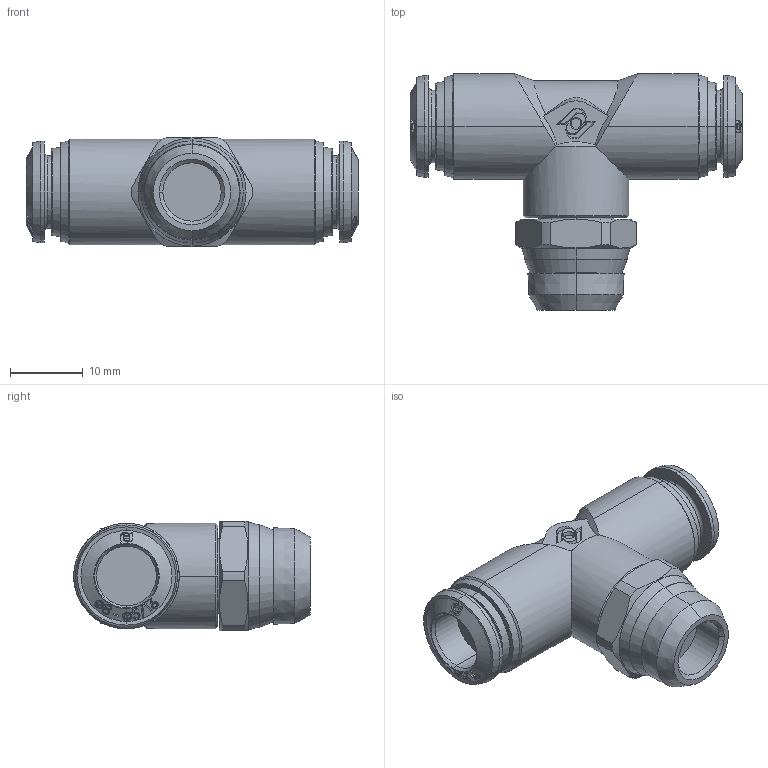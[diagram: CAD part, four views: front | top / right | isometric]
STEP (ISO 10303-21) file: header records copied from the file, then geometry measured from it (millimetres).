
FILE_DESCRIPTION (( 'STEP AP214' ), '1' );
FILE_NAME ('5021100007.step', '2012-10-01T16:48:19', ( '' ), ( '' ), 'SwSTEP 2.0', 'SolidWorks 2012', '' );
FILE_SCHEMA (( 'AUTOMOTIVE_DESIGN' ));
Length unit declared in the file: millimetre
Products named in the file (1): 5021100007
Bounding box: 45.6 x 32.5 x 15 mm (x, y, z)
Volume: 8944.9 mm3; surface area: 4108 mm2
Topology: 1 solids, 1 shells, 436 faces, 1128 edges, 740 vertices
Faces by surface type: bspline 226, cone 116, plane 49, cylinder 31, torus 14
Entity records: 25506 total; most frequent: CARTESIAN_POINT 16899, ORIENTED_EDGE 2256, EDGE_CURVE 1128, DIRECTION 940, B_SPLINE_CURVE_WITH_KNOTS 782, VERTEX_POINT 740, EDGE_LOOP 482, FACE_OUTER_BOUND 436
